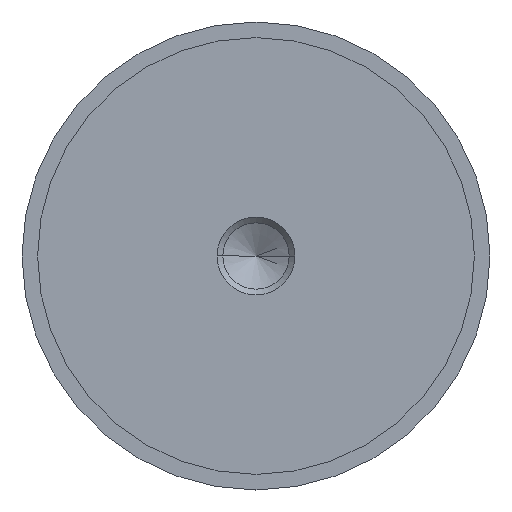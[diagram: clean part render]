
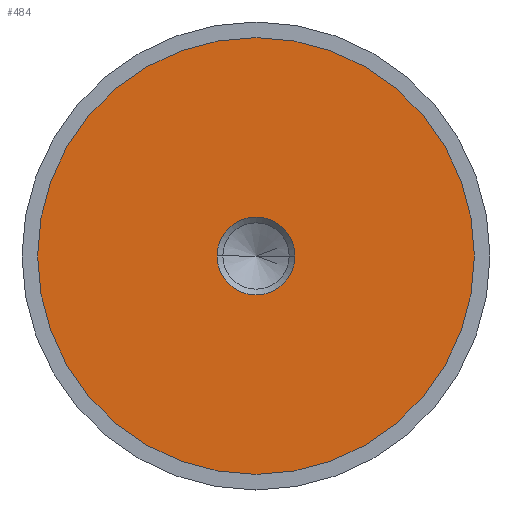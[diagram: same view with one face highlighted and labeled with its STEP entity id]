
A CAD part, left-side view. The second image highlights one B-rep face of the part: STEP entity #484.
In plain terms, the highlighted planar face has unit normal (-1, 0, 0).
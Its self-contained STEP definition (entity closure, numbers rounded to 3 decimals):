
#10 = PLANE ( 'NONE',  #45 ) ;
#25 = CARTESIAN_POINT ( 'NONE',  ( -17.49, 28., 0. ) ) ;
#32 = AXIS2_PLACEMENT_3D ( 'NONE', #99, #572, #456 ) ;
#45 = AXIS2_PLACEMENT_3D ( 'NONE', #25, #258, #731 ) ;
#51 = DIRECTION ( 'NONE',  ( 0., 0., 1. ) ) ;
#58 = AXIS2_PLACEMENT_3D ( 'NONE', #571, #631, #639 ) ;
#99 = CARTESIAN_POINT ( 'NONE',  ( -17.49, 0., 0. ) ) ;
#146 = DIRECTION ( 'NONE',  ( 0., 0., 1. ) ) ;
#158 = EDGE_CURVE ( 'NONE', #501, #564, #195, .T. ) ;
#175 = DIRECTION ( 'NONE',  ( -1., 0., 0. ) ) ;
#195 = CIRCLE ( 'NONE', #449, 28. ) ;
#198 = CARTESIAN_POINT ( 'NONE',  ( -17.49, 0., -28. ) ) ;
#207 = CARTESIAN_POINT ( 'NONE',  ( -17.49, 0., 28. ) ) ;
#208 = CARTESIAN_POINT ( 'NONE',  ( -17.49, 4.99, 0. ) ) ;
#219 = VERTEX_POINT ( 'NONE', #208 ) ;
#258 = DIRECTION ( 'NONE',  ( 1., 0., 0. ) ) ;
#269 = EDGE_LOOP ( 'NONE', ( #394, #450 ) ) ;
#275 = CARTESIAN_POINT ( 'NONE',  ( -17.49, 0., 0. ) ) ;
#293 = CIRCLE ( 'NONE', #32, 4.99 ) ;
#298 = ORIENTED_EDGE ( 'NONE', *, *, #568, .T. ) ;
#312 = EDGE_CURVE ( 'NONE', #219, #690, #293, .T. ) ;
#373 = CIRCLE ( 'NONE', #771, 28. ) ;
#394 = ORIENTED_EDGE ( 'NONE', *, *, #657, .T. ) ;
#395 = CARTESIAN_POINT ( 'NONE',  ( -17.49, -4.99, 0. ) ) ;
#436 = ORIENTED_EDGE ( 'NONE', *, *, #158, .T. ) ;
#449 = AXIS2_PLACEMENT_3D ( 'NONE', #595, #175, #51 ) ;
#450 = ORIENTED_EDGE ( 'NONE', *, *, #312, .T. ) ;
#456 = DIRECTION ( 'NONE',  ( 0., 0., -1. ) ) ;
#484 = ADVANCED_FACE ( 'NONE', ( #688, #555 ), #10, .F. ) ;
#501 = VERTEX_POINT ( 'NONE', #198 ) ;
#555 = FACE_OUTER_BOUND ( 'NONE', #686, .T. ) ;
#563 = CIRCLE ( 'NONE', #58, 4.99 ) ;
#564 = VERTEX_POINT ( 'NONE', #207 ) ;
#568 = EDGE_CURVE ( 'NONE', #564, #501, #373, .T. ) ;
#571 = CARTESIAN_POINT ( 'NONE',  ( -17.49, 0., 0. ) ) ;
#572 = DIRECTION ( 'NONE',  ( 1., 0., 0. ) ) ;
#595 = CARTESIAN_POINT ( 'NONE',  ( -17.49, 0., 0. ) ) ;
#631 = DIRECTION ( 'NONE',  ( 1., 0., 0. ) ) ;
#639 = DIRECTION ( 'NONE',  ( 0., 0., -1. ) ) ;
#657 = EDGE_CURVE ( 'NONE', #690, #219, #563, .T. ) ;
#686 = EDGE_LOOP ( 'NONE', ( #298, #436 ) ) ;
#688 = FACE_BOUND ( 'NONE', #269, .T. ) ;
#690 = VERTEX_POINT ( 'NONE', #395 ) ;
#702 = DIRECTION ( 'NONE',  ( -1., 0., 0. ) ) ;
#731 = DIRECTION ( 'NONE',  ( 0., 0., -1. ) ) ;
#771 = AXIS2_PLACEMENT_3D ( 'NONE', #275, #702, #146 ) ;
